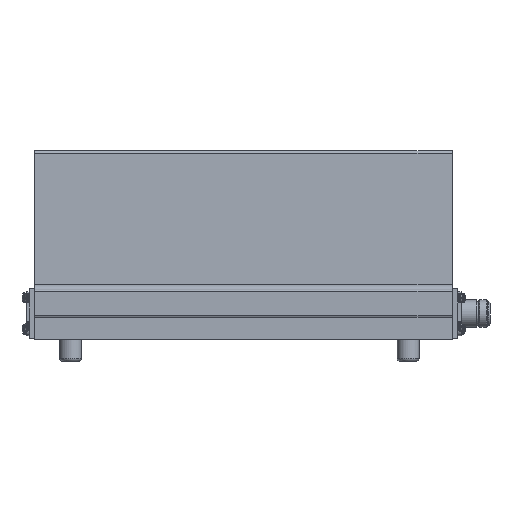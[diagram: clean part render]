
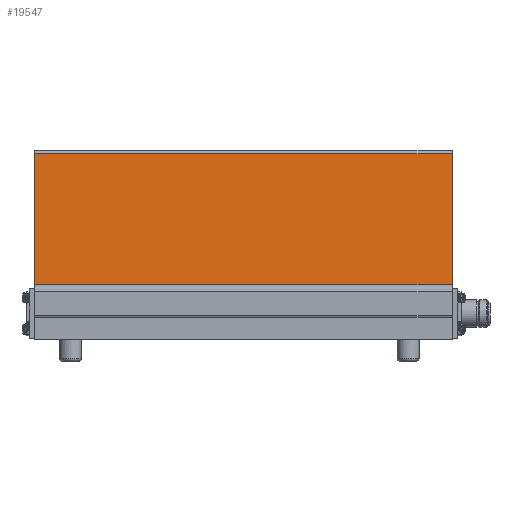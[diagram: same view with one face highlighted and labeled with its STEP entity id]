
A CAD part, left-side view. The second image highlights one B-rep face of the part: STEP entity #19547.
In plain terms, the highlighted planar face has unit normal (-1, 0, 0.028).
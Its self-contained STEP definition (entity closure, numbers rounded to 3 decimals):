
#157=B_SPLINE_CURVE_WITH_KNOTS('',3,(#26656,#26657,#26658,#26659),
 .UNSPECIFIED.,.F.,.F.,(4,4),(0.,1.),.UNSPECIFIED.);
#1475=ORIENTED_EDGE('',*,*,#5308,.F.);
#1476=ORIENTED_EDGE('',*,*,#5393,.F.);
#1477=ORIENTED_EDGE('',*,*,#5361,.T.);
#1478=ORIENTED_EDGE('',*,*,#5392,.T.);
#5308=EDGE_CURVE('',#7299,#7300,#8663,.T.);
#5361=EDGE_CURVE('',#7344,#7343,#8695,.T.);
#5392=EDGE_CURVE('',#7343,#7300,#8712,.T.);
#5393=EDGE_CURVE('',#7344,#7299,#157,.F.);
#7299=VERTEX_POINT('',#26474);
#7300=VERTEX_POINT('',#26476);
#7343=VERTEX_POINT('',#26587);
#7344=VERTEX_POINT('',#26589);
#8663=LINE('',#26475,#9747);
#8695=LINE('',#26588,#9779);
#8712=LINE('',#26654,#9796);
#9747=VECTOR('',#22110,1000.);
#9779=VECTOR('',#22200,1000.);
#9796=VECTOR('',#22265,1000.);
#10829=EDGE_LOOP('',(#1475,#1476,#1477,#1478));
#11923=FACE_BOUND('',#10829,.T.);
#13000=PLANE('',#20454);
#19547=ADVANCED_FACE('',(#11923),#13000,.T.);
#20454=AXIS2_PLACEMENT_3D('',#26655,#22266,#22267);
#22110=DIRECTION('',(-0.028,0.,-1.));
#22200=DIRECTION('',(-0.028,0.,-1.));
#22265=DIRECTION('',(0.,-1.,0.));
#22266=DIRECTION('',(-1.,0.,0.028));
#22267=DIRECTION('',(0.028,0.,1.));
#26474=CARTESIAN_POINT('',(-58.737,0.,84.518));
#26475=CARTESIAN_POINT('',(-61.714,0.,-21.121));
#26476=CARTESIAN_POINT('',(-60.875,0.,8.674));
#26587=CARTESIAN_POINT('',(-60.875,241.3,8.674));
#26588=CARTESIAN_POINT('',(-58.737,241.3,84.519));
#26589=CARTESIAN_POINT('',(-58.737,241.3,84.519));
#26654=CARTESIAN_POINT('',(-60.875,241.3,8.674));
#26655=CARTESIAN_POINT('',(-58.737,241.3,84.519));
#26656=CARTESIAN_POINT('',(-58.737,0.,84.519));
#26657=CARTESIAN_POINT('',(-58.737,80.433,84.519));
#26658=CARTESIAN_POINT('',(-58.737,160.867,84.519));
#26659=CARTESIAN_POINT('',(-58.737,241.3,84.519));
